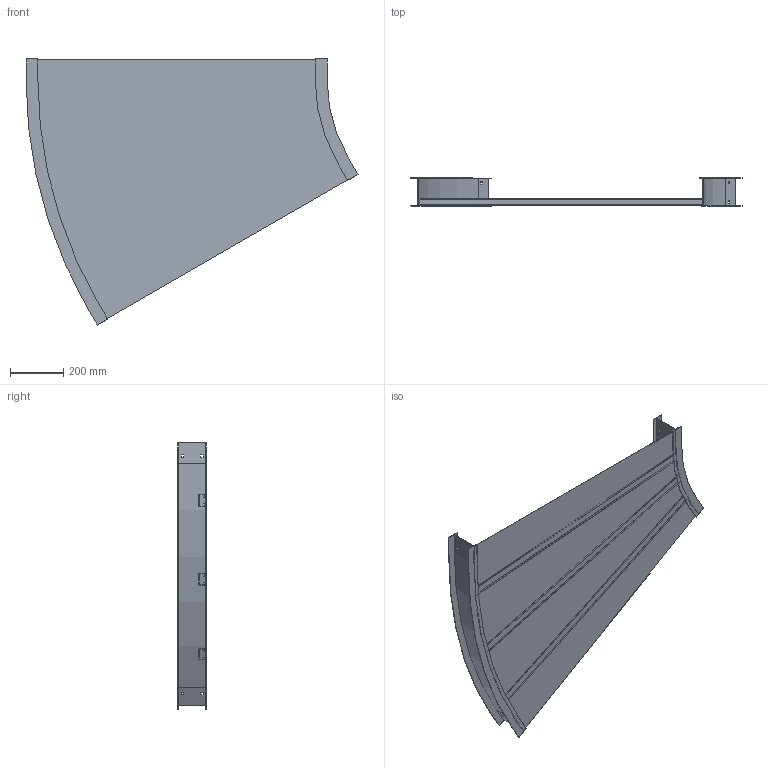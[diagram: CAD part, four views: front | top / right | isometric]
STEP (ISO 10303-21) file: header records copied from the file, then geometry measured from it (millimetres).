
FILE_DESCRIPTION((''),'2;1');
FILE_NAME('AHF442SHB3024_ASM','2010-01-28T',('erouzier'),(''),'PRO/ENGINEER BY PARAMETRIC TECHNOLOGY CORPORATION, 2008510','PRO/ENGINEER BY PARAMETRIC TECHNOLOGY CORPORATION, 2008510','');
FILE_SCHEMA(('CONFIG_CONTROL_DESIGN'));
Length unit declared in the file: inch
Products named in the file (5): CDS001810-4-30-24-I; CDS001810-4-30-66-O; CDS002159L42; ED04588-42-24-30; AHF442SHB3024_ASM
Assembly tree (6 placements, depth 2):
  AHF442SHB3024_ASM
    CDS001810-4-30-24-I
    CDS001810-4-30-66-O
    CDS002159L42  x3
    ED04588-42-24-30
Bounding box: 1242.99 x 106.05 x 996.39 mm (x, y, z)
Volume: 1814732 mm3; surface area: 2927394 mm2
Topology: 6 solids, 6 shells, 184 faces, 516 edges, 344 vertices
Faces by surface type: plane 137, cylinder 47
Entity records: 4149 total; most frequent: CARTESIAN_POINT 715, ORIENTED_EDGE 696, DIRECTION 668, EDGE_CURVE 348, VECTOR 298, LINE 298, VERTEX_POINT 232, AXIS2_PLACEMENT_3D 185
